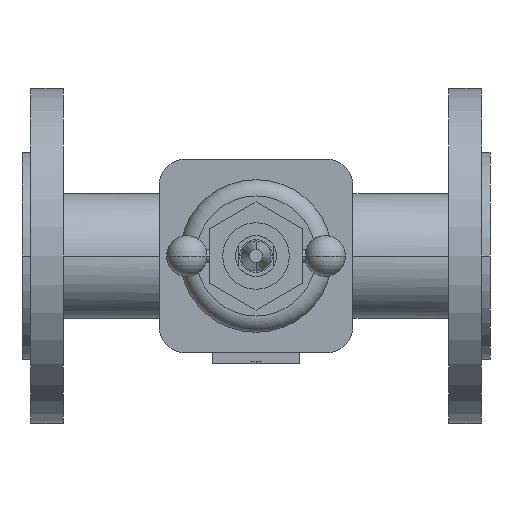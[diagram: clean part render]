
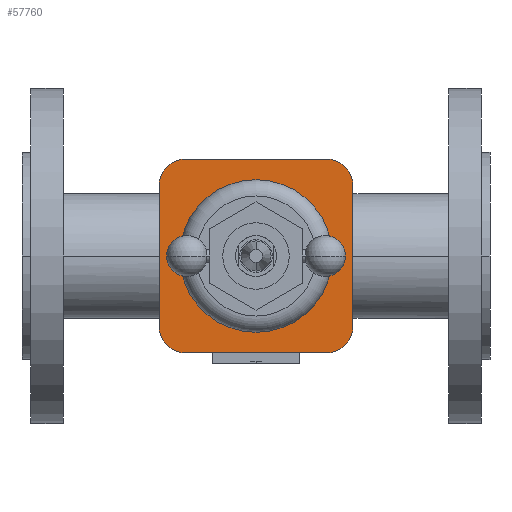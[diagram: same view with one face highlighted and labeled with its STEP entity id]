
A CAD part, front view. The second image highlights one B-rep face of the part: STEP entity #57760.
In plain terms, the highlighted planar face has unit normal (0, -1, 0).
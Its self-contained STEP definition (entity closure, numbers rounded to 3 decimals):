
#16910=CARTESIAN_POINT('',(152.5,-87.,0.));
#16920=VERTEX_POINT('',#16910);
#16950=CARTESIAN_POINT('',(115.,-87.,0.));
#16960=DIRECTION('',(0.,-1.,0.));
#16970=DIRECTION('',(-1.,0.,0.));
#16980=AXIS2_PLACEMENT_3D('',#16950,#16960,#16970);
#16990=CIRCLE('',#16980,37.5);
#17000=CARTESIAN_POINT('',(77.5,-87.,0.));
#17010=VERTEX_POINT('',#17000);
#17020=EDGE_CURVE('',#17010,#16920,#16990,.T.);
#46420=CARTESIAN_POINT('',(162.648,-87.,
-34.648));
#46430=VERTEX_POINT('',#46420);
#46460=CARTESIAN_POINT('',(162.648,-87.,
17.324));
#46470=DIRECTION('',(0.,0.,1.));
#46480=VECTOR('',#46470,1.);
#46490=LINE('',#46460,#46480);
#46500=CARTESIAN_POINT('',(162.648,-87.,
34.648));
#46510=VERTEX_POINT('',#46500);
#46520=EDGE_CURVE('',#46430,#46510,#46490,.T.);
#47350=CARTESIAN_POINT('',(149.648,-87.,-47.648));
#47360=VERTEX_POINT('',#47350);
#47410=CARTESIAN_POINT('',(149.648,-87.,-34.648));
#47420=DIRECTION('',(0.,-1.,0.));
#47430=DIRECTION('',(1.,0.,0.));
#47440=AXIS2_PLACEMENT_3D('',#47410,#47420,#47430);
#47450=CIRCLE('',#47440,13.);
#47460=EDGE_CURVE('',#47360,#46430,#47450,.T.);
#48250=CARTESIAN_POINT('',(80.352,-87.,-47.648));
#48260=VERTEX_POINT('',#48250);
#48290=CARTESIAN_POINT('',(107.199,-87.,-47.648));
#48300=DIRECTION('',(1.,0.,0.));
#48310=VECTOR('',#48300,1.);
#48320=LINE('',#48290,#48310);
#48330=EDGE_CURVE('',#48260,#47360,#48320,.T.);
#49090=CARTESIAN_POINT('',(67.352,-87.,-34.648));
#49100=VERTEX_POINT('',#49090);
#49150=CARTESIAN_POINT('',(80.352,-87.,-34.648));
#49160=DIRECTION('',(0.,-1.,0.));
#49170=DIRECTION('',(0.,0.,-1.));
#49180=AXIS2_PLACEMENT_3D('',#49150,#49160,#49170);
#49190=CIRCLE('',#49180,13.);
#49200=EDGE_CURVE('',#49100,#48260,#49190,.T.);
#49700=CARTESIAN_POINT('',(67.352,-87.,34.648));
#49710=VERTEX_POINT('',#49700);
#49740=CARTESIAN_POINT('',(67.352,-87.,-17.324));
#49750=DIRECTION('',(0.,0.,-1.));
#49760=VECTOR('',#49750,1.);
#49770=LINE('',#49740,#49760);
#49780=EDGE_CURVE('',#49710,#49100,#49770,.T.);
#50060=CARTESIAN_POINT('',(80.352,-87.,47.648));
#50070=VERTEX_POINT('',#50060);
#50120=CARTESIAN_POINT('',(80.352,-87.,34.648));
#50130=DIRECTION('',(0.,-1.,0.));
#50140=DIRECTION('',(-1.,0.,0.));
#50150=AXIS2_PLACEMENT_3D('',#50120,#50130,#50140);
#50160=CIRCLE('',#50150,13.);
#50170=EDGE_CURVE('',#50070,#49710,#50160,.T.);
#50480=CARTESIAN_POINT('',(149.648,-87.,47.648));
#50490=VERTEX_POINT('',#50480);
#50520=CARTESIAN_POINT('',(72.551,-87.,47.648));
#50530=DIRECTION('',(-1.,0.,0.));
#50540=VECTOR('',#50530,1.);
#50550=LINE('',#50520,#50540);
#50560=EDGE_CURVE('',#50490,#50070,#50550,.T.);
#50810=CARTESIAN_POINT('',(149.648,-87.,34.648));
#50820=DIRECTION('',(0.,-1.,0.));
#50830=DIRECTION('',(0.,0.,1.));
#50840=AXIS2_PLACEMENT_3D('',#50810,#50820,#50830);
#50850=CIRCLE('',#50840,13.);
#50860=EDGE_CURVE('',#46510,#50490,#50850,.T.);
#57560=CARTESIAN_POINT('',(64.75,-87.,0.));
#57570=DIRECTION('',(0.,-1.,0.));
#57580=DIRECTION('',(-1.,0.,0.));
#57590=AXIS2_PLACEMENT_3D('',#57560,#57570,#57580);
#57600=PLANE('',#57590);
#57610=ORIENTED_EDGE('',*,*,#50170,.T.);
#57620=ORIENTED_EDGE('',*,*,#50560,.T.);
#57630=ORIENTED_EDGE('',*,*,#50860,.T.);
#57640=ORIENTED_EDGE('',*,*,#46520,.T.);
#57650=ORIENTED_EDGE('',*,*,#47460,.T.);
#57660=ORIENTED_EDGE('',*,*,#48330,.T.);
#57670=ORIENTED_EDGE('',*,*,#49200,.T.);
#57680=ORIENTED_EDGE('',*,*,#49780,.T.);
#57690=EDGE_LOOP('',(#57680,#57670,#57660,#57650,#57640,#57630,#57620,
#57610));
#57700=FACE_OUTER_BOUND('',#57690,.T.);
#57710=ORIENTED_EDGE('',*,*,#17020,.F.);
#57720=EDGE_CURVE('',#16920,#17010,#16990,.T.);
#57730=ORIENTED_EDGE('',*,*,#57720,.F.);
#57740=EDGE_LOOP('',(#57730,#57710));
#57750=FACE_BOUND('',#57740,.T.);
#57760=ADVANCED_FACE('',(#57700,#57750),#57600,.T.);
